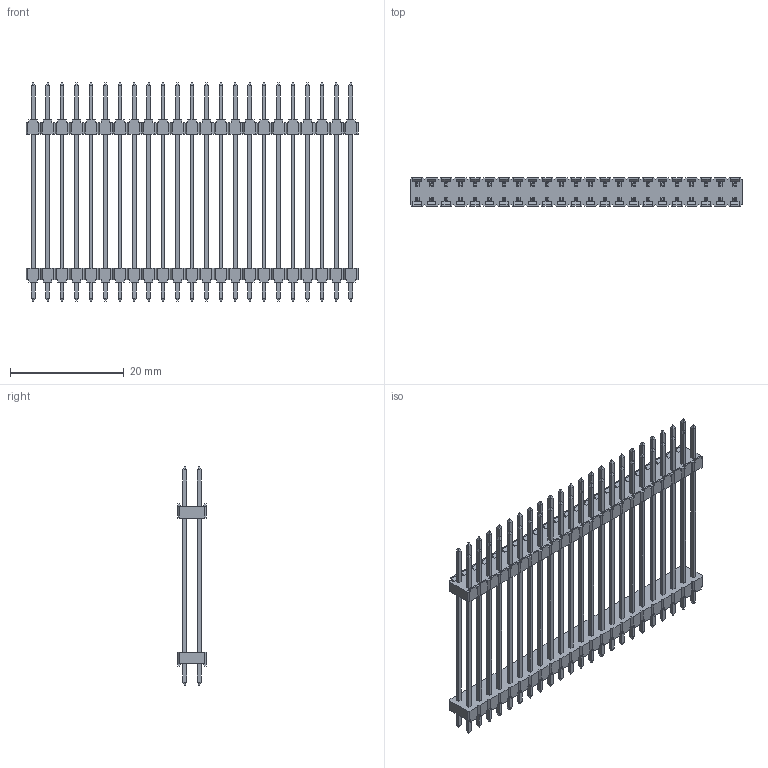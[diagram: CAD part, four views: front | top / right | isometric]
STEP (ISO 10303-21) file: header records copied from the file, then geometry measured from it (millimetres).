
FILE_DESCRIPTION(/* description */ (''),/* implementation_level */ '2;1');
FILE_NAME(/* name */ '961446-8041504-XX',/* time_stamp */ '2007-06-14T19:29:28+02:00',/* author */ (''),/* organization */ (''),/* preprocessor_version */ 'ST-DEVELOPER v9',/* originating_system */ 'UGS - NX 3.0',/* authorisation */ '');
FILE_SCHEMA (('AUTOMOTIVE_DESIGN { 1 0 10303 214 1 1 1 1 }'));
Length unit declared in the file: millimetre
Products named in the file (1): 961446-8041504-XX
Bounding box: 58.42 x 5 x 38.4 mm (x, y, z)
Volume: 1814.4 mm3; surface area: 5761.1 mm2
Topology: 1 solids, 1 shells, 1760 faces, 4624 edges, 2960 vertices
Faces by surface type: plane 1760
Entity records: 52768 total; most frequent: CARTESIAN_POINT 9345, ORIENTED_EDGE 9248, DIRECTION 8146, EDGE_CURVE 4624, LINE 4624, VECTOR 4624, VERTEX_POINT 2960, EDGE_LOOP 1944
